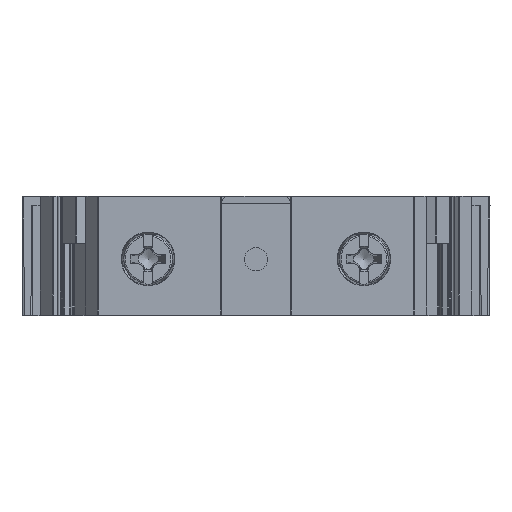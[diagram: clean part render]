
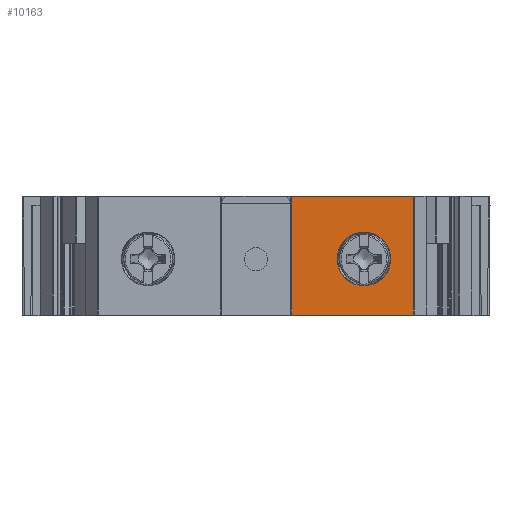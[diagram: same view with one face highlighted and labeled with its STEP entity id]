
A CAD part, top view. The second image highlights one B-rep face of the part: STEP entity #10163.
In plain terms, the highlighted planar face has unit normal (0, 0, 1).
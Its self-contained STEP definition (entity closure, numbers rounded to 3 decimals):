
#312=CIRCLE('',#10586,3.724);
#534=ORIENTED_EDGE('',*,*,#2711,.T.);
#535=ORIENTED_EDGE('',*,*,#2712,.T.);
#536=ORIENTED_EDGE('',*,*,#2713,.T.);
#537=ORIENTED_EDGE('',*,*,#2714,.T.);
#538=ORIENTED_EDGE('',*,*,#2715,.T.);
#2711=EDGE_CURVE('',#3795,#3796,#4525,.F.);
#2712=EDGE_CURVE('',#3796,#3797,#4526,.T.);
#2713=EDGE_CURVE('',#3797,#3798,#4527,.F.);
#2714=EDGE_CURVE('',#3798,#3795,#4528,.T.);
#2715=EDGE_CURVE('',#3799,#3799,#312,.F.);
#3795=VERTEX_POINT('',#13609);
#3796=VERTEX_POINT('',#13610);
#3797=VERTEX_POINT('',#13612);
#3798=VERTEX_POINT('',#13614);
#3799=VERTEX_POINT('',#13617);
#4525=LINE('',#13608,#5306);
#4526=LINE('',#13611,#5307);
#4527=LINE('',#13613,#5308);
#4528=LINE('',#13615,#5309);
#5306=VECTOR('',#11369,1000.);
#5307=VECTOR('',#11370,1000.);
#5308=VECTOR('',#11371,1000.);
#5309=VECTOR('',#11372,1000.);
#6045=EDGE_LOOP('',(#534,#535,#536,#537));
#6046=EDGE_LOOP('',(#538));
#6506=FACE_BOUND('',#6045,.T.);
#6507=FACE_BOUND('',#6046,.T.);
#6968=PLANE('',#10585);
#10163=ADVANCED_FACE('',(#6506,#6507),#6968,.T.);
#10585=AXIS2_PLACEMENT_3D('',#13607,#11367,#11368);
#10586=AXIS2_PLACEMENT_3D('',#13616,#11373,#11374);
#11367=DIRECTION('',(0.,0.,1.));
#11368=DIRECTION('',(1.,0.,0.));
#11369=DIRECTION('',(0.,1.,0.));
#11370=DIRECTION('',(1.,0.,0.));
#11371=DIRECTION('',(0.,-1.,0.));
#11372=DIRECTION('',(-1.,0.,0.));
#11373=DIRECTION('',(0.,0.,1.));
#11374=DIRECTION('',(1.,0.,0.));
#13607=CARTESIAN_POINT('',(32.5,89.366,47.));
#13608=CARTESIAN_POINT('',(4.95,15.5,47.));
#13609=CARTESIAN_POINT('',(4.95,16.5,47.));
#13610=CARTESIAN_POINT('',(4.95,0.,47.));
#13611=CARTESIAN_POINT('',(32.5,0.,47.));
#13612=CARTESIAN_POINT('',(21.93,0.,47.));
#13613=CARTESIAN_POINT('',(21.93,89.366,47.));
#13614=CARTESIAN_POINT('',(21.93,16.5,47.));
#13615=CARTESIAN_POINT('',(32.5,16.5,47.));
#13616=CARTESIAN_POINT('',(15.,7.8,47.));
#13617=CARTESIAN_POINT('',(18.724,7.8,47.));
